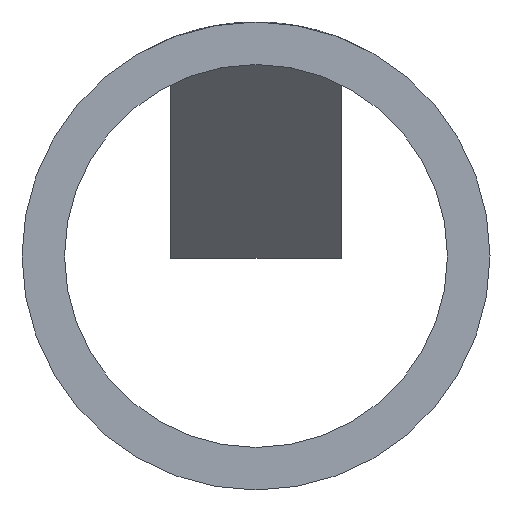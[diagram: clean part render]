
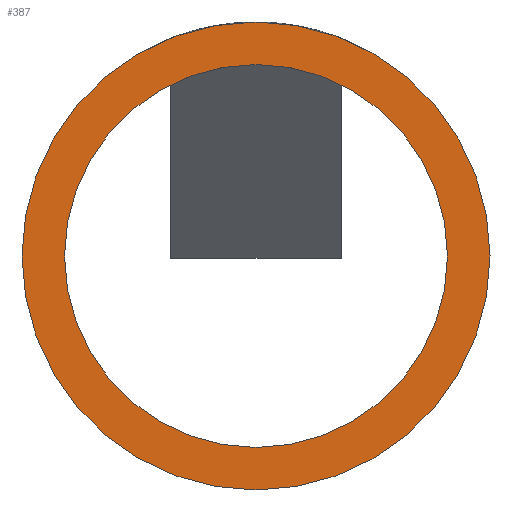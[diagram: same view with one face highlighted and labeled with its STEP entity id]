
A CAD part, front view. The second image highlights one B-rep face of the part: STEP entity #387.
In plain terms, the highlighted planar face has unit normal (0, -1, 0).
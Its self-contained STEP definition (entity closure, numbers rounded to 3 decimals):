
#30 = CIRCLE ( 'NONE', #94, 5.5 ) ;
#58 = CIRCLE ( 'NONE', #153, 4.5 ) ;
#94 = AXIS2_PLACEMENT_3D ( 'NONE', #289, #277, #276 ) ;
#96 = EDGE_CURVE ( 'NONE', #262, #358, #401, .T. ) ;
#104 = EDGE_CURVE ( 'NONE', #287, #301, #396, .T. ) ;
#108 = AXIS2_PLACEMENT_3D ( 'NONE', #331, #330, #327 ) ;
#116 = EDGE_CURVE ( 'NONE', #301, #287, #58, .T. ) ;
#127 = AXIS2_PLACEMENT_3D ( 'NONE', #350, #349, #348 ) ;
#129 = EDGE_CURVE ( 'NONE', #358, #262, #30, .T. ) ;
#137 = AXIS2_PLACEMENT_3D ( 'NONE', #172, #204, #200 ) ;
#153 = AXIS2_PLACEMENT_3D ( 'NONE', #308, #306, #304 ) ;
#158 = PLANE ( 'NONE',  #137 ) ;
#172 = CARTESIAN_POINT ( 'NONE',  ( 0., 0., 0. ) ) ;
#200 = DIRECTION ( 'NONE',  ( -1., 0., 0. ) ) ;
#204 = DIRECTION ( 'NONE',  ( 0., -1., 0. ) ) ;
#246 = CARTESIAN_POINT ( 'NONE',  ( 5.5, 0., 0. ) ) ;
#249 = CARTESIAN_POINT ( 'NONE',  ( 4.5, 0., 0. ) ) ;
#253 = CARTESIAN_POINT ( 'NONE',  ( -4.5, 0., 0. ) ) ;
#255 = CARTESIAN_POINT ( 'NONE',  ( -5.5, 0., 0. ) ) ;
#262 = VERTEX_POINT ( 'NONE', #255 ) ;
#276 = DIRECTION ( 'NONE',  ( -1., 0., 0. ) ) ;
#277 = DIRECTION ( 'NONE',  ( 0., -1., 0. ) ) ;
#287 = VERTEX_POINT ( 'NONE', #253 ) ;
#289 = CARTESIAN_POINT ( 'NONE',  ( 0., 0., 0. ) ) ;
#301 = VERTEX_POINT ( 'NONE', #249 ) ;
#304 = DIRECTION ( 'NONE',  ( -1., 0., 0. ) ) ;
#306 = DIRECTION ( 'NONE',  ( 0., -1., 0. ) ) ;
#308 = CARTESIAN_POINT ( 'NONE',  ( 0., 0., 0. ) ) ;
#327 = DIRECTION ( 'NONE',  ( -1., 0., 0. ) ) ;
#330 = DIRECTION ( 'NONE',  ( 0., -1., 0. ) ) ;
#331 = CARTESIAN_POINT ( 'NONE',  ( 0., 0., 0. ) ) ;
#348 = DIRECTION ( 'NONE',  ( -1., 0., 0. ) ) ;
#349 = DIRECTION ( 'NONE',  ( 0., -1., 0. ) ) ;
#350 = CARTESIAN_POINT ( 'NONE',  ( 0., 0., 0. ) ) ;
#358 = VERTEX_POINT ( 'NONE', #246 ) ;
#387 = ADVANCED_FACE ( 'NONE', ( #497, #496 ), #158, .T. ) ;
#396 = CIRCLE ( 'NONE', #108, 4.5 ) ;
#401 = CIRCLE ( 'NONE', #127, 5.5 ) ;
#443 = ORIENTED_EDGE ( 'NONE', *, *, #129, .T. ) ;
#444 = ORIENTED_EDGE ( 'NONE', *, *, #96, .T. ) ;
#445 = ORIENTED_EDGE ( 'NONE', *, *, #116, .F. ) ;
#446 = ORIENTED_EDGE ( 'NONE', *, *, #104, .F. ) ;
#479 = EDGE_LOOP ( 'NONE', ( #443, #444 ) ) ;
#485 = EDGE_LOOP ( 'NONE', ( #445, #446 ) ) ;
#496 = FACE_BOUND ( 'NONE', #485, .T. ) ;
#497 = FACE_OUTER_BOUND ( 'NONE', #479, .T. ) ;
